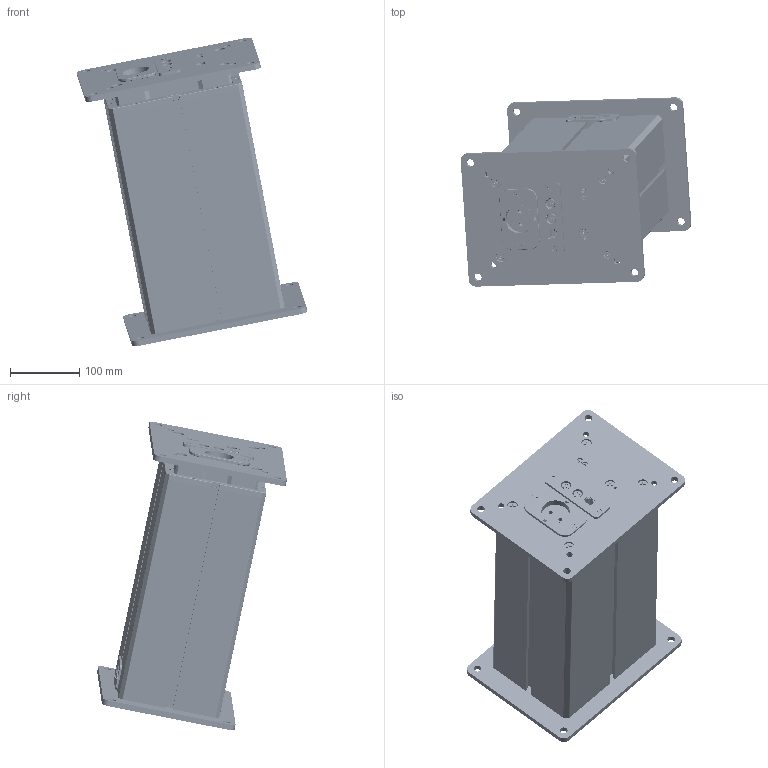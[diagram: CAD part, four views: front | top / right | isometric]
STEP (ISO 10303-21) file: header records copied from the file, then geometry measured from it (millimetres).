
FILE_DESCRIPTION (( 'STEP AP203' ), '1' );
FILE_NAME ('3D_TL18AC.STEP', '2018-04-03T08:59:14', ( '' ), ( '' ), 'SwSTEP 2.0', 'SolidWorks 2015', '' );
FILE_SCHEMA (( 'CONFIG_CONTROL_DESIGN' ));
Length unit declared in the file: millimetre
Products named in the file (35): 三維零件圖-40510-010-SR-C; 3PIN位電控盒; 三維零件圖-31605-744-三插座電控盒上蓋; 三維零件圖-33903-245-12-沉頭十字螺絲8x12; RF-2004; 三維零件圖-31605-748-單插座電控盒上蓋; 三維零件圖-31605-745-三插座電控盒下蓋; 三維零件圖-33903-201-10-沉頭螺絲-A; 保險絲固定架; 三維零件圖-31605-749-單插座電控盒下蓋; 6PIN; 三維零件圖-33903-047-12-圓頭十字螺絲; 保險絲; E-08-K; 6PINPCB; 33903-212-12; 三維零件圖-32209-54-633-外層管-A; RF-2004(組合件帶保險絲）; 三維零件圖-33903-215-30-自攻螺絲; 5PIN; 三維零件圖-32906-301-3-上蓋-A ; 三維零件圖-32209-52-609-外層管-A; 三維零件圖-33903-245-12-沉頭螺絲; 單獨AC電控盒X; 40404-643-RJ45_默_; 三維零件圖-32906-302-3-底蓋-A; 三維零件圖-32905-490-實心護蓋; 三維零件圖-31605-806-電控盒下蓋-A; 三維零件圖-40510-003-SR-B; 3D_TL18AC; 三維零件圖-32906-348-2-固定板-A; 三維零件圖-31605-805-電控盒上蓋-A; 三維零件圖-33903-215-12-自攻螺絲; 三維零件圖-32906-348-3-固定板-A; 2pin位新電控盒
Assembly tree (73 placements, depth 4):
  3D_TL18AC
    三維零件圖-32209-54-633-外層管-A
    三維零件圖-32209-52-609-外層管-A
    三維零件圖-32905-490-實心護蓋
    三維零件圖-32906-348-2-固定板-A
    三維零件圖-32906-348-3-固定板-A
    3PIN位電控盒
      三維零件圖-31605-744-三插座電控盒上蓋
      三維零件圖-31605-745-三插座電控盒下蓋
      6PIN  x2
      6PINPCB
      5PIN
      40404-643-RJ45_默_
      三維零件圖-40510-003-SR-B  x3
      三維零件圖-33903-215-12-自攻螺絲  x4
    單獨AC電控盒X
      三維零件圖-31605-748-單插座電控盒上蓋
      三維零件圖-31605-749-單插座電控盒下蓋
      E-08-K
      三維零件圖-40510-003-SR-B
      三維零件圖-33903-215-30-自攻螺絲  x4
    2pin位新電控盒
      三維零件圖-31605-806-電控盒下蓋-A
      三維零件圖-31605-805-電控盒上蓋-A
      40404-643-RJ45_默_
      三維零件圖-40510-010-SR-C  x3
      RF-2004(組合件帶保險絲）
        RF-2004
        保險絲固定架
        保險絲
      三維零件圖-33903-245-12-沉頭螺絲  x4
    三維零件圖-33903-245-12-沉頭十字螺絲8x12  x9
    三維零件圖-33903-201-10-沉頭螺絲-A  x6
    三維零件圖-33903-047-12-圓頭十字螺絲  x8
    33903-212-12  x4
    三維零件圖-32906-301-3-上蓋-A 
    三維零件圖-32906-302-3-底蓋-A
Bounding box: 332.02 x 273.05 x 444.24 mm (x, y, z)
Volume: 3226545.4 mm3; surface area: 1518002.9 mm2
Topology: 69 solids, 69 shells, 9410 faces, 24166 edges, 14987 vertices
Faces by surface type: plane 3745, cylinder 2899, cone 1567, torus 549, bspline 412, sphere 238
Entity records: 221170 total; most frequent: CARTESIAN_POINT 65915, ORIENTED_EDGE 32242, DIRECTION 30898, EDGE_CURVE 16121, AXIS2_PLACEMENT_3D 10616, VERTEX_POINT 10127, VECTOR 9666, LINE 9666
